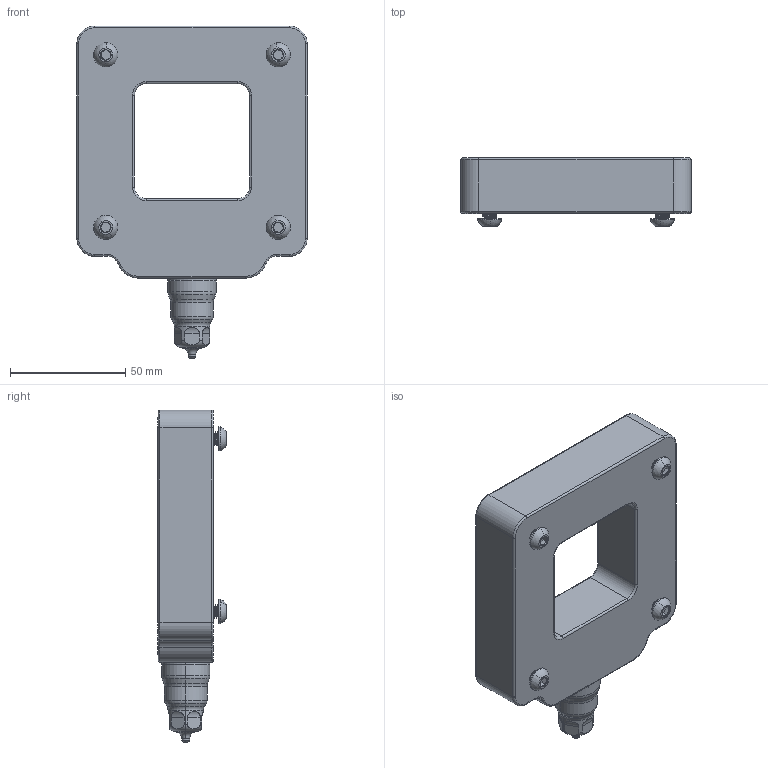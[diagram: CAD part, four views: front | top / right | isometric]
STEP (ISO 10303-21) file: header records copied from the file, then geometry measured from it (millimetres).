
FILE_DESCRIPTION (( 'STEP AP214' ), '1' );
FILE_NAME ('RL322-050.STEP', '2025-04-16T17:44:55', ( '' ), ( '' ), 'SwSTEP 2.0', 'SolidWorks 2023', '' );
FILE_SCHEMA (( 'AUTOMOTIVE_DESIGN' ));
Length unit declared in the file: inch
Products named in the file (7): 099557_Installation Model; RL322-050; 097420-A_Default<As Machined>; 099614_099614; 097420-B_Default<As Machined>; 099597_099597; 097420
Assembly tree (9 placements, depth 3):
  RL322-050
    099557_Installation Model
    099597_099597
    097420
      097420-A_Default<As Machined>
      097420-B_Default<As Machined>
    099614_099614  x4
Bounding box: 100.1 x 29.97 x 144.3 mm (x, y, z)
Volume: 133258.3 mm3; surface area: 65270 mm2
Topology: 14 solids, 18 shells, 889 faces, 2216 edges, 1406 vertices
Faces by surface type: plane 435, cylinder 280, cone 98, torus 56, bspline 12, sphere 8
Entity records: 33014 total; most frequent: CARTESIAN_POINT 6516, DIRECTION 4032, ORIENTED_EDGE 3804, EDGE_CURVE 1902, AXIS2_PLACEMENT_3D 1514, VERTEX_POINT 1214, LINE 1004, VECTOR 1004
